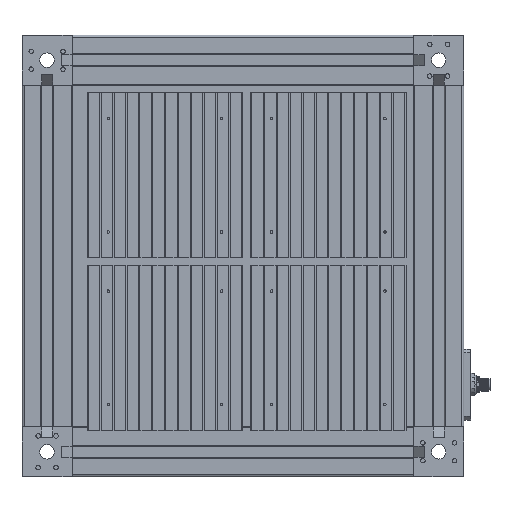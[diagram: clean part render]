
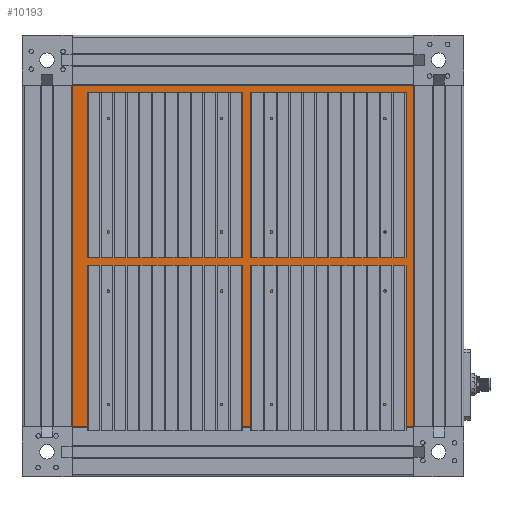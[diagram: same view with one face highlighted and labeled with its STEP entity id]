
A CAD part, front view. The second image highlights one B-rep face of the part: STEP entity #10193.
In plain terms, the highlighted planar face has unit normal (0, -1, 0).
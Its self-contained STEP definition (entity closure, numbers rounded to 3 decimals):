
#247 = DIRECTION ( 'NONE',  ( -1., 0., 0. ) ) ;
#397 = CARTESIAN_POINT ( 'NONE',  ( 153., 0., -153. ) ) ;
#1081 = DIRECTION ( 'NONE',  ( -1., 0., 0. ) ) ;
#1643 = VECTOR ( 'NONE', #31911, 1000. ) ;
#1809 = ORIENTED_EDGE ( 'NONE', *, *, #20193, .T. ) ;
#2450 = VECTOR ( 'NONE', #247, 1000. ) ;
#2648 = LINE ( 'NONE', #46463, #22800 ) ;
#2865 = CARTESIAN_POINT ( 'NONE',  ( 153., 0., -153. ) ) ;
#3183 = CARTESIAN_POINT ( 'NONE',  ( -153., 0., -153. ) ) ;
#3990 = DIRECTION ( 'NONE',  ( 1., 0., 0. ) ) ;
#5690 = VECTOR ( 'NONE', #21374, 1000. ) ;
#5895 = EDGE_CURVE ( 'NONE', #19494, #22021, #25657, .T. ) ;
#7745 = EDGE_CURVE ( 'NONE', #8450, #32097, #31497, .T. ) ;
#8450 = VERTEX_POINT ( 'NONE', #3183 ) ;
#9204 = CARTESIAN_POINT ( 'NONE',  ( -156.75, 0., 0. ) ) ;
#9355 = ORIENTED_EDGE ( 'NONE', *, *, #21204, .F. ) ;
#10193 = ADVANCED_FACE ( 'NONE', ( #17057 ), #17062, .F. ) ;
#10464 = VERTEX_POINT ( 'NONE', #21842 ) ;
#10885 = VECTOR ( 'NONE', #25557, 1000. ) ;
#11282 = CARTESIAN_POINT ( 'NONE',  ( -156.75, 0., -153. ) ) ;
#11303 = DIRECTION ( 'NONE',  ( -1., 0., 0. ) ) ;
#11510 = CARTESIAN_POINT ( 'NONE',  ( -153., 0., -153. ) ) ;
#12219 = EDGE_CURVE ( 'NONE', #10464, #16729, #37639, .T. ) ;
#12258 = LINE ( 'NONE', #40948, #21147 ) ;
#13279 = CARTESIAN_POINT ( 'NONE',  ( 0., 0., 0. ) ) ;
#13282 = VECTOR ( 'NONE', #3990, 1000. ) ;
#14187 = ORIENTED_EDGE ( 'NONE', *, *, #30526, .F. ) ;
#15185 = CARTESIAN_POINT ( 'NONE',  ( 153., 0., 153. ) ) ;
#15453 = CARTESIAN_POINT ( 'NONE',  ( -153., 0., 153. ) ) ;
#15722 = VECTOR ( 'NONE', #26940, 1000. ) ;
#16556 = CARTESIAN_POINT ( 'NONE',  ( 153., 0., 156.75 ) ) ;
#16729 = VERTEX_POINT ( 'NONE', #16556 ) ;
#17057 = FACE_OUTER_BOUND ( 'NONE', #30300, .T. ) ;
#17062 = PLANE ( 'NONE',  #19009 ) ;
#17429 = ORIENTED_EDGE ( 'NONE', *, *, #43965, .F. ) ;
#18667 = CARTESIAN_POINT ( 'NONE',  ( 156.75, 0., 153. ) ) ;
#18923 = ORIENTED_EDGE ( 'NONE', *, *, #47299, .F. ) ;
#19009 = AXIS2_PLACEMENT_3D ( 'NONE', #13279, #20882, #47356 ) ;
#19027 = DIRECTION ( 'NONE',  ( 1., 0., 0. ) ) ;
#19494 = VERTEX_POINT ( 'NONE', #18667 ) ;
#19511 = CARTESIAN_POINT ( 'NONE',  ( 156.75, 0., -153. ) ) ;
#19789 = VERTEX_POINT ( 'NONE', #23044 ) ;
#20193 = EDGE_CURVE ( 'NONE', #10464, #33232, #27084, .T. ) ;
#20388 = LINE ( 'NONE', #22900, #13282 ) ;
#20882 = DIRECTION ( 'NONE',  ( 0., 1., 0. ) ) ;
#21147 = VECTOR ( 'NONE', #33318, 1000. ) ;
#21204 = EDGE_CURVE ( 'NONE', #41424, #41132, #12258, .T. ) ;
#21320 = ORIENTED_EDGE ( 'NONE', *, *, #24265, .F. ) ;
#21374 = DIRECTION ( 'NONE',  ( 0., 0., -1. ) ) ;
#21842 = CARTESIAN_POINT ( 'NONE',  ( -153., 0., 156.75 ) ) ;
#21895 = ORIENTED_EDGE ( 'NONE', *, *, #35960, .F. ) ;
#22021 = VERTEX_POINT ( 'NONE', #19511 ) ;
#22800 = VECTOR ( 'NONE', #1081, 1000. ) ;
#22900 = CARTESIAN_POINT ( 'NONE',  ( -153., 0., 153. ) ) ;
#23044 = CARTESIAN_POINT ( 'NONE',  ( -156.75, 0., 153. ) ) ;
#24265 = EDGE_CURVE ( 'NONE', #22021, #43095, #38676, .T. ) ;
#25557 = DIRECTION ( 'NONE',  ( 0., 0., 1. ) ) ;
#25574 = DIRECTION ( 'NONE',  ( 0., 0., -1. ) ) ;
#25657 = LINE ( 'NONE', #43317, #44595 ) ;
#25805 = LINE ( 'NONE', #397, #15722 ) ;
#26940 = DIRECTION ( 'NONE',  ( 0., 0., -1. ) ) ;
#27084 = LINE ( 'NONE', #28982, #5690 ) ;
#27576 = VECTOR ( 'NONE', #19027, 1000. ) ;
#28641 = ORIENTED_EDGE ( 'NONE', *, *, #7745, .F. ) ;
#28982 = CARTESIAN_POINT ( 'NONE',  ( -153., 0., 0. ) ) ;
#29637 = ORIENTED_EDGE ( 'NONE', *, *, #12219, .F. ) ;
#30300 = EDGE_LOOP ( 'NONE', ( #38504, #29637, #1809, #18923, #21895, #28641, #17429, #9355, #14187, #21320, #35594, #39625 ) ) ;
#30305 = CARTESIAN_POINT ( 'NONE',  ( 0., 0., 156.75 ) ) ;
#30368 = CARTESIAN_POINT ( 'NONE',  ( 0., 0., -153. ) ) ;
#30526 = EDGE_CURVE ( 'NONE', #43095, #41424, #25805, .T. ) ;
#30603 = LINE ( 'NONE', #2865, #40678 ) ;
#31497 = LINE ( 'NONE', #11510, #2450 ) ;
#31896 = DIRECTION ( 'NONE',  ( 0., 0., -1. ) ) ;
#31911 = DIRECTION ( 'NONE',  ( 0., 0., 1. ) ) ;
#32097 = VERTEX_POINT ( 'NONE', #11282 ) ;
#32233 = LINE ( 'NONE', #44410, #10885 ) ;
#33232 = VERTEX_POINT ( 'NONE', #15453 ) ;
#33318 = DIRECTION ( 'NONE',  ( -1., 0., 0. ) ) ;
#35594 = ORIENTED_EDGE ( 'NONE', *, *, #5895, .F. ) ;
#35960 = EDGE_CURVE ( 'NONE', #32097, #19789, #40765, .T. ) ;
#37639 = LINE ( 'NONE', #30305, #27576 ) ;
#38504 = ORIENTED_EDGE ( 'NONE', *, *, #42070, .F. ) ;
#38676 = LINE ( 'NONE', #30368, #39874 ) ;
#39625 = ORIENTED_EDGE ( 'NONE', *, *, #46637, .T. ) ;
#39874 = VECTOR ( 'NONE', #11303, 1000. ) ;
#40329 = CARTESIAN_POINT ( 'NONE',  ( 153., 0., -153. ) ) ;
#40678 = VECTOR ( 'NONE', #25574, 1000. ) ;
#40765 = LINE ( 'NONE', #9204, #1643 ) ;
#40948 = CARTESIAN_POINT ( 'NONE',  ( 0., 0., -156.75 ) ) ;
#41018 = CARTESIAN_POINT ( 'NONE',  ( -153., 0., -156.75 ) ) ;
#41132 = VERTEX_POINT ( 'NONE', #41018 ) ;
#41335 = VERTEX_POINT ( 'NONE', #15185 ) ;
#41424 = VERTEX_POINT ( 'NONE', #45623 ) ;
#42070 = EDGE_CURVE ( 'NONE', #16729, #41335, #30603, .T. ) ;
#43095 = VERTEX_POINT ( 'NONE', #40329 ) ;
#43317 = CARTESIAN_POINT ( 'NONE',  ( 156.75, 0., 0. ) ) ;
#43965 = EDGE_CURVE ( 'NONE', #41132, #8450, #32233, .T. ) ;
#44410 = CARTESIAN_POINT ( 'NONE',  ( -153., 0., 0. ) ) ;
#44595 = VECTOR ( 'NONE', #31896, 1000. ) ;
#45623 = CARTESIAN_POINT ( 'NONE',  ( 153., 0., -156.75 ) ) ;
#46463 = CARTESIAN_POINT ( 'NONE',  ( 0., 0., 153. ) ) ;
#46637 = EDGE_CURVE ( 'NONE', #19494, #41335, #2648, .T. ) ;
#47299 = EDGE_CURVE ( 'NONE', #19789, #33232, #20388, .T. ) ;
#47356 = DIRECTION ( 'NONE',  ( 0., 0., 1. ) ) ;
